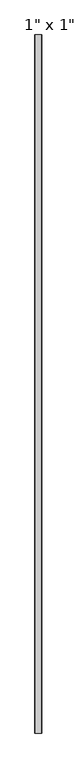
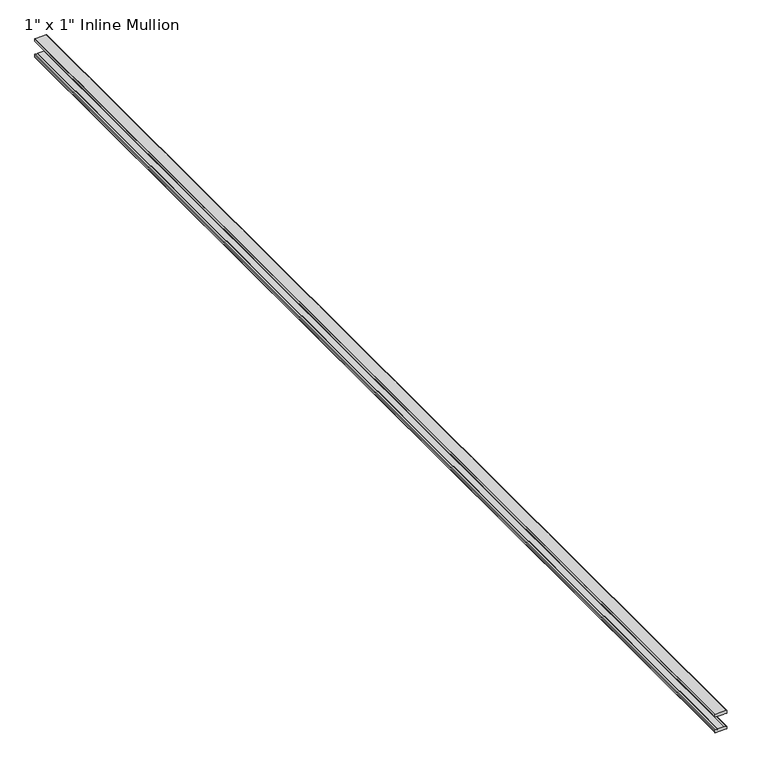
"""IFC4 building model written with IfcOpenShell, lengths in millimetres: proxy geometry."""

from ifc_helpers import new_model, si_unit, point, frame, frame_2d, origin, place, context, project, spatial, polyline, circle_curve, trimmed, segment, composite_curve, outline, extrude, source, transform, mapped, element, save


def proxy_12dd4dbe(model_context):
    return source(origin(), model_context, "Body", "SweptSolid", [
        extrude(outline(composite_curve([segment(polyline([(5.64, -11.5), (1.0, -11.5)]), True, "CONTINUOUS"), segment(trimmed(circle_curve(frame_2d((1.0, -11.0)), 0.5), [point((1.0, -11.5))], [point((0.5, -11.0))], False, "CARTESIAN"), True, "CONTINUOUS"), segment(polyline([(0.5, -11.0), (0.5, -6.75), (1.5, -6.75), (1.5, -5.7984177), (0.0, -6.0), (0.0, 6.0), (1.5, 5.7984177), (1.5, 6.75), (0.5, 6.75), (0.5, 11.0)]), True, "CONTINUOUS"), segment(trimmed(circle_curve(frame_2d((1.0, 11.0)), 0.5), [point((0.5, 11.0))], [point((1.0, 11.5))], False, "CARTESIAN"), True, "CONTINUOUS"), segment(polyline([(1.0, 11.5), (5.64, 11.5)]), True, "CONTINUOUS"), segment(trimmed(circle_curve(frame_2d((5.64, 11.0)), 0.5), [point((5.64, 11.5))], [point((6.14, 11.0))], False, "CARTESIAN"), True, "CONTINUOUS"), segment(polyline([(6.14, 11.0), (6.14, -11.0)]), True, "CONTINUOUS"), segment(trimmed(circle_curve(frame_2d((5.64, -11.0)), 0.5), [point((6.14, -11.0))], [point((5.64, -11.5))], False, "CARTESIAN"), True, "CONTINUOUS")], self_intersect=False)), frame((0.0, -1145.1150279, 0.0), z_axis=(0.0, 1.0, 0.0), x_axis=(0.0, 0.0, 1.0)), (0.0, 0.0, 1.0), 2290.2300558),
        extrude(outline(composite_curve([segment(trimmed(circle_curve(frame_2d((-26.4, -11.0)), 0.5), [point((-25.9, -11.0))], [point((-26.4, -11.5))], False, "CARTESIAN"), True, "CONTINUOUS"), segment(polyline([(-26.4, -11.5), (-31.04, -11.5)]), True, "CONTINUOUS"), segment(trimmed(circle_curve(frame_2d((-31.04, -11.0)), 0.5), [point((-31.04, -11.5))], [point((-31.54, -11.0))], False, "CARTESIAN"), True, "CONTINUOUS"), segment(polyline([(-31.54, -11.0), (-31.54, 11.0)]), True, "CONTINUOUS"), segment(trimmed(circle_curve(frame_2d((-31.04, 11.0)), 0.5), [point((-31.54, 11.0))], [point((-31.04, 11.5))], False, "CARTESIAN"), True, "CONTINUOUS"), segment(polyline([(-31.04, 11.5), (-26.4, 11.5)]), True, "CONTINUOUS"), segment(trimmed(circle_curve(frame_2d((-26.4, 11.0)), 0.5), [point((-26.4, 11.5))], [point((-25.9, 11.0))], False, "CARTESIAN"), True, "CONTINUOUS"), segment(polyline([(-25.9, 11.0), (-25.9, 6.75), (-26.9, 6.75), (-26.9, 5.7984177), (-25.4, 6.0), (-25.4, -6.0), (-26.9, -5.7984177), (-26.9, -6.75), (-25.9, -6.75), (-25.9, -11.0)]), True, "CONTINUOUS")], self_intersect=False)), frame((0.0, -1145.1150279, 0.0), z_axis=(0.0, 1.0, 0.0), x_axis=(0.0, 0.0, 1.0)), (0.0, 0.0, 1.0), 2290.2300558),
    ])


if __name__ == "__main__":
    model = new_model("IFC4")
    model_context = context("Model", 3, world=origin())
    ifc_project = project(units=[si_unit("LENGTHUNIT", "METRE", prefix="MILLI")], contexts=[model_context])
    site = spatial("IfcSite", under=ifc_project)
    building = spatial("IfcBuilding", under=site)
    placement = place(None, origin())
    proxy_shape = proxy_12dd4dbe(model_context)
    element("IfcBuildingElementProxy", 1, Name="Frame-Teknion-Architectural_Complements-FCMN_1x1_Mullion-R2016 : 1\" x 1\" Inline Mullion", ObjectType="Frame-Teknion-Architectural_Complements-FCMN_1x1_Mullion-R2016 : 1\" x 1\" Inline Mullion", at=placement, inside=building, context=model_context, shape_type="MappedRepresentation", body=[
        mapped(proxy_shape, transform((0.0, 0.0, 0.0), x_axis=(1.0, 0.0, 0.0), y_axis=(0.0, 1.0, 0.0), z_axis=(0.0, 0.0, 1.0))),
    ])
    save(model, "model.ifc")
